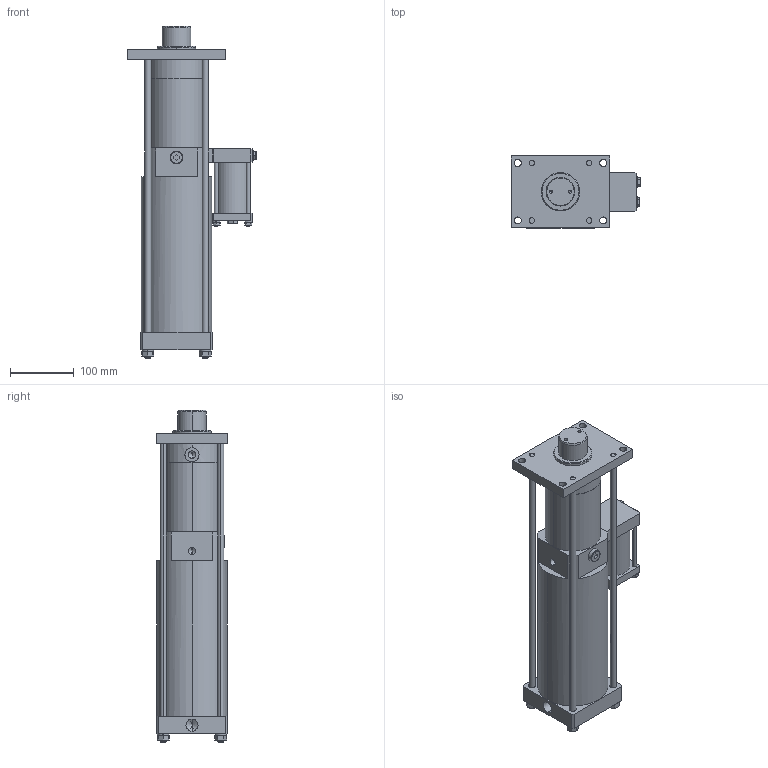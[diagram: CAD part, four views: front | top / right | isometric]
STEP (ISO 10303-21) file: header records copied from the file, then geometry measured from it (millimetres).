
FILE_DESCRIPTION (( 'STEP AP214' ), '1' );
FILE_NAME ('PCS4 10045 VC16.STEP', '2016-02-19T10:15:32', ( 'Admin' ), ( '' ), 'SwSTEP 2.0', 'SolidWorks 2015', '' );
FILE_SCHEMA (( 'AUTOMOTIVE_DESIGN' ));
Length unit declared in the file: millimetre
Products named in the file (8): PCS4 10045 VC16; hexagon nut style 1_is_IS 1364-3 - M10-W-N; spring lock washer 3063_is_IS 3063- 10-A; hexagon nut style 1_is_IS 1364-3 - M6-W-N; spring lock washer 3063_is_IS 3063- 6-A; hexagon fit bolt_is_IS 3640 - M8 x 25 x 14.5-N; plain washer (type a)_is_IS 2016 A- 9; PCS4 10045_PCS4 10045 VC16
Assembly tree (21 placements, depth 2):
  PCS4 10045 VC16
    PCS4 10045_PCS4 10045 VC16
    plain washer (type a)_is_IS 2016 A- 9  x2
    hexagon fit bolt_is_IS 3640 - M8 x 25 x 14.5-N  x2
    spring lock washer 3063_is_IS 3063- 6-A  x4
    hexagon nut style 1_is_IS 1364-3 - M6-W-N  x4
    spring lock washer 3063_is_IS 3063- 10-A  x4
    hexagon nut style 1_is_IS 1364-3 - M10-W-N  x4
Bounding box: 202.6 x 112 x 520 mm (x, y, z)
Volume: 4773708.3 mm3; surface area: 349927.4 mm2
Topology: 22 solids, 22 shells, 682 faces, 1629 edges, 1015 vertices
Faces by surface type: plane 288, cylinder 208, cone 138, bspline 48
Entity records: 10852 total; most frequent: CARTESIAN_POINT 2433, DIRECTION 1735, ORIENTED_EDGE 1610, EDGE_CURVE 805, AXIS2_PLACEMENT_3D 672, VERTEX_POINT 513, EDGE_LOOP 410, LINE 391
